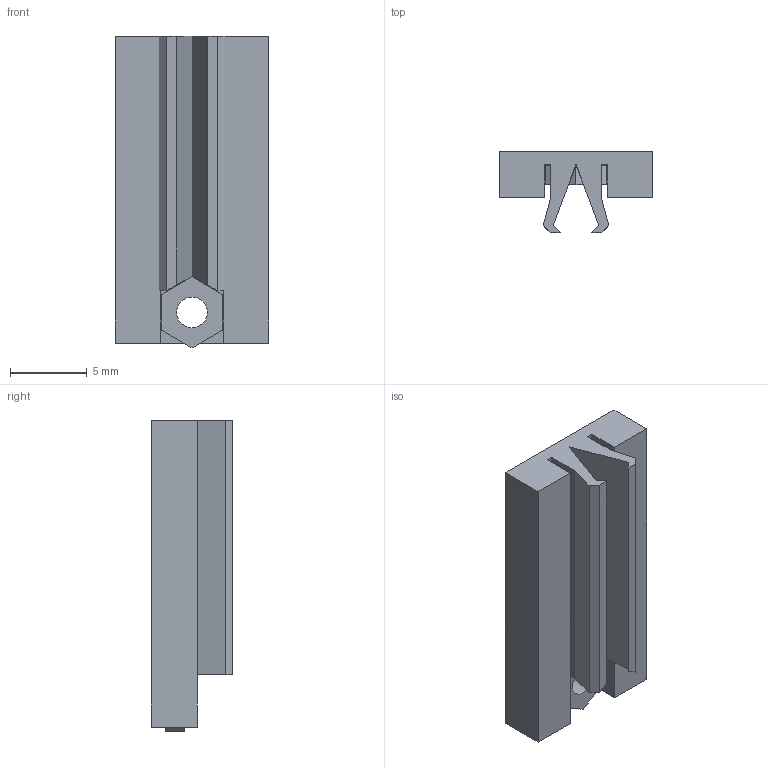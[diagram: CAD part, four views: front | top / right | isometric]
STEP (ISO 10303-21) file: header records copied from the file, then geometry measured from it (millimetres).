
FILE_DESCRIPTION(/* description */ (''),/* implementation_level */ '2;1');
FILE_NAME(/* name */ 'C:/Users/priba/Documents/Temp/brick-spac2.step',/* time_stamp */ '2020-04-27T09:10:11+02:00',/* author */ (''),/* organization */ (''),/* preprocessor_version */ 'ST-DEVELOPER v18.1',/* originating_system */ 'Autodesk Translation Framework v9.2.0.1227',/* authorisation */ '');
FILE_SCHEMA (('AUTOMOTIVE_DESIGN { 1 0 10303 214 3 1 1 }'));
Length unit declared in the file: millimetre
Products named in the file (2): brick-spac2; mrm-nut-m2nyl
Assembly tree (1 placements, depth 2):
  brick-spac2
    mrm-nut-m2nyl
Bounding box: 10 x 5.31 x 20.31 mm (x, y, z)
Volume: 577.5 mm3; surface area: 989.4 mm2
Topology: 2 solids, 2 shells, 40 faces, 107 edges, 71 vertices
Faces by surface type: plane 38, cylinder 2
Full cylindrical faces by diameter (mm): 2 x1, 2.4 x1
Entity records: 1290 total; most frequent: CARTESIAN_POINT 221, ORIENTED_EDGE 214, DIRECTION 198, EDGE_CURVE 107, LINE 102, VECTOR 102, VERTEX_POINT 71, AXIS2_PLACEMENT_3D 48
